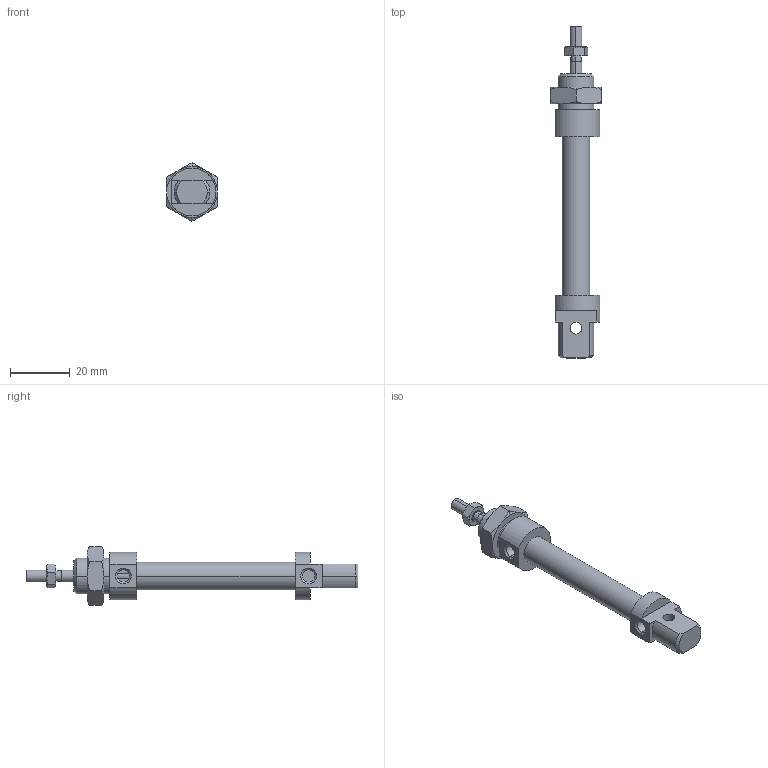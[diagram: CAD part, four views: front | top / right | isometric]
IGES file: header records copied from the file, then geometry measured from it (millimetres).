
Global section: file name: No Iges File Name specified; native system: AutoDesk Inventor R6.0; preprocessor: AutoDesk Inventor Iges Exporter R6.0; author: No Author specified; organization: No Organization specified; date: 20030407.190818; units: millimetre
Bounding box: 17 x 111 x 19.63 mm (x, y, z)
Volume: 10022.2 mm3; surface area: 6417.5 mm2
Topology: 4 solids, 4 shells, 117 faces, 261 edges, 158 vertices
Faces by surface type: cone 38, plane 34, bspline 21, cylinder 18, revolution 6
